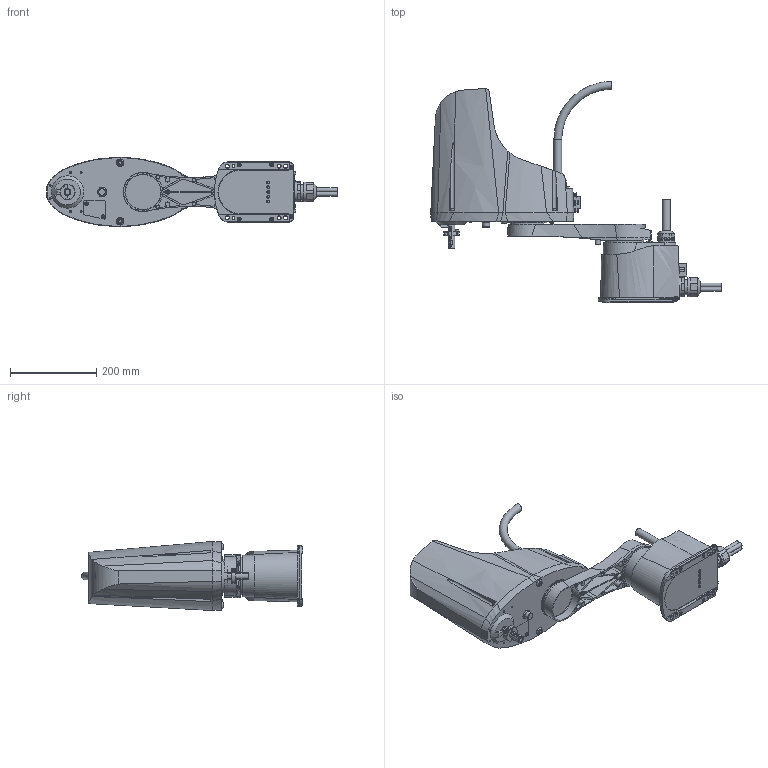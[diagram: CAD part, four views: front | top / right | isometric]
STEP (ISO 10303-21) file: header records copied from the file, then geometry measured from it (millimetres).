
FILE_DESCRIPTION( ( 'STEP AP214' ), '1' );
FILE_NAME( 'p:/temp/worker_1/temp/exporttempdir_1840_156_95hox/format_0/YK400XE-4-S-150-5L.stp', '2020-03-16T10:55:22', ( '' ), ( '' ), ' ', 'PARTsolutions', ' ' );
FILE_SCHEMA( ( 'AUTOMOTIVE_DESIGN { 1 0 10303 214 1 1 1 1 }' ) );
Length unit declared in the file: millimetre
Products named in the file (5): YK400XE-4-S-150-5L; _YK400XE-4-S-150-5L-1; _YK400XE-4-S-150-5L-2; _YK400XE-4-S-150-5L-3; _YK400XE-4-S-150-5L-4
Assembly tree (4 placements, depth 2):
  YK400XE-4-S-150-5L
    _YK400XE-4-S-150-5L-1
    _YK400XE-4-S-150-5L-2
    _YK400XE-4-S-150-5L-3
    _YK400XE-4-S-150-5L-4
Bounding box: 672.5 x 512.05 x 160 mm (x, y, z)
Volume: 10769354.9 mm3; surface area: 596008 mm2
Topology: 4 solids, 4 shells, 1169 faces, 2858 edges, 1885 vertices
Faces by surface type: plane 728, cylinder 269, cone 68, bspline 62, torus 38, sphere 4
Full cylindrical faces by diameter (mm): 2.75 x3, 3 x2, 3.242 x6, 3.3 x2, 4 x8, 5.2 x1, 5.4 x2, 5.5 x14, 6 x12, 6.85 x2, 7 x10, 7.5 x2, 7.6 x1, 8 x23, 8.5 x1, 8.9 x1, 9 x6, 9.2 x6, 9.8 x1, 9.9 x2, 10 x1, 10.8 x2, 11 x1, 12 x14, 16 x1, 17.3 x2, 17.567 x1, 18.1 x2, 26 x2, 34 x1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
Entity records: 45389 total; most frequent: CARTESIAN_POINT 9935, DIRECTION 5126, ORIENTED_EDGE 5096, EDGE_CURVE 2548, AXIS2_PLACEMENT_3D 1869, VERTEX_POINT 1832, EDGE_LOOP 1630, LINE 1388
